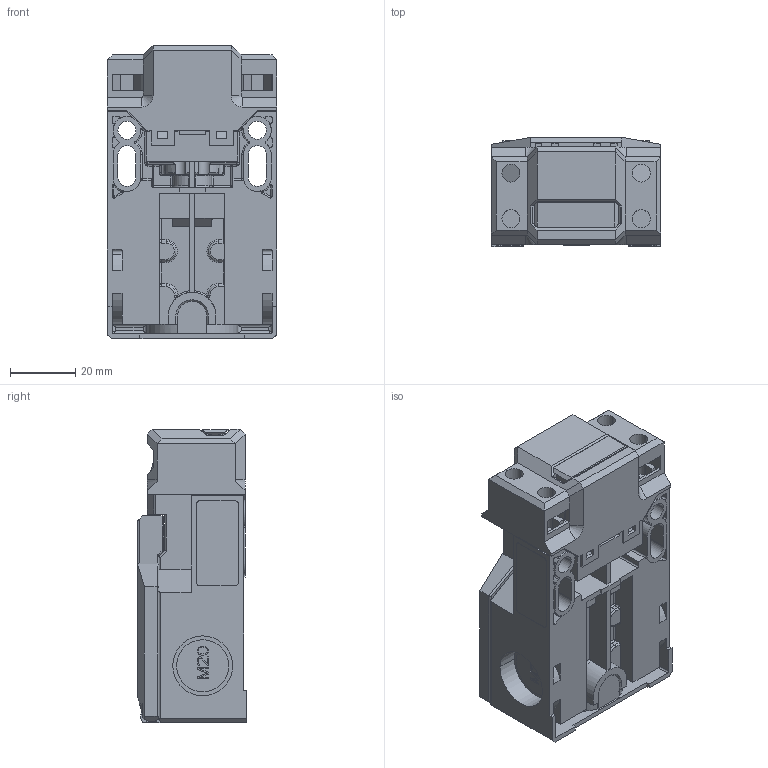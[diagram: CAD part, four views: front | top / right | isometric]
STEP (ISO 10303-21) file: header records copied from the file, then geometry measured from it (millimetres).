
FILE_DESCRIPTION((''),'2;1');
FILE_NAME('6016169183_SW0001','2023-11-17T08:01:04',('Michaela.Grimm'),(''),'CREO PARAMETRIC BY PTC INC, 2022124','CREO PARAMETRIC BY PTC INC, 2022124','');
FILE_SCHEMA(('AUTOMOTIVE_DESIGN { 1 0 10303 214 1 1 1 1 }'));
Products named in the file (1): 6016169183_SW0001
Bounding box: 52.1 x 33.6 x 90.1 mm (x, y, z)
Volume: 66392.2 mm3; surface area: 59933.3 mm2
Topology: 2 solids, 3 shells, 2772 faces, 7369 edges, 4537 vertices
Faces by surface type: plane 1381, cylinder 849, torus 208, bspline 168, sphere 125, cone 33, extrusion 8
Entity records: 146104 total; most frequent: CARTESIAN_POINT 34669, ORIENTED_EDGE 14690, DIRECTION 14026, PRESENTATION_STYLE_ASSIGNMENT 10131, STYLED_ITEM 7359, CURVE_STYLE 7357, EDGE_CURVE 7345, AXIS2_PLACEMENT_3D 4705
